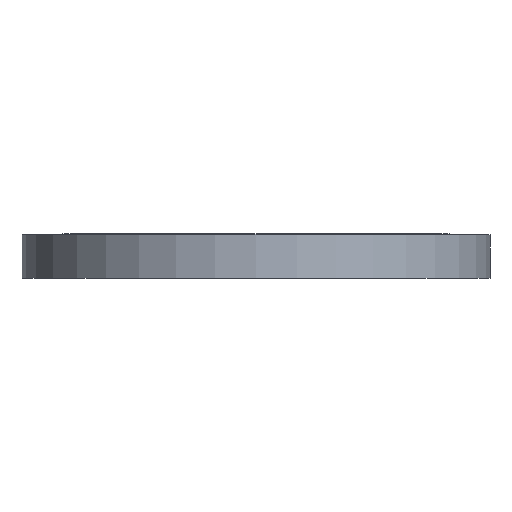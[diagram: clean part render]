
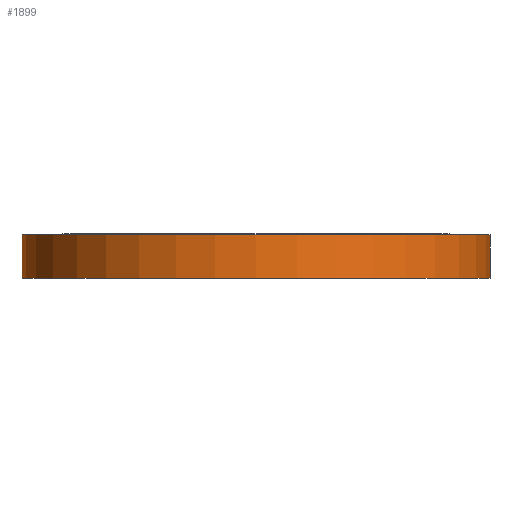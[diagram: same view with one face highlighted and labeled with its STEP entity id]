
A CAD part, front view. The second image highlights one B-rep face of the part: STEP entity #1899.
In plain terms, the highlighted cylindrical face has radius 445 mm (diameter 890 mm), a partial arc.
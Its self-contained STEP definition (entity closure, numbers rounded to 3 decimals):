
#230 = CARTESIAN_POINT ( 'NONE',  ( 445., 0., -84. ) ) ;
#283 = CARTESIAN_POINT ( 'NONE',  ( -445., 0., -2. ) ) ;
#358 = VECTOR ( 'NONE', #487, 1000. ) ;
#400 = CARTESIAN_POINT ( 'NONE',  ( -445., 0., -84. ) ) ;
#487 = DIRECTION ( 'NONE',  ( 0., 0., 1. ) ) ;
#489 = CARTESIAN_POINT ( 'NONE',  ( 445., 0., -150. ) ) ;
#491 = LINE ( 'NONE', #489, #358 ) ;
#724 = EDGE_CURVE ( 'NONE', #1261, #1681, #491, .T. ) ;
#850 = CARTESIAN_POINT ( 'NONE',  ( 445., 0., -2. ) ) ;
#916 = EDGE_LOOP ( 'NONE', ( #1615, #1619, #1621, #1622 ) ) ;
#947 = VERTEX_POINT ( 'NONE', #400 ) ;
#984 = DIRECTION ( 'NONE',  ( -1., 0., 0. ) ) ;
#985 = DIRECTION ( 'NONE',  ( 0., 0., -1. ) ) ;
#990 = CARTESIAN_POINT ( 'NONE',  ( 0., 0., -2. ) ) ;
#1032 = VECTOR ( 'NONE', #1106, 1000. ) ;
#1106 = DIRECTION ( 'NONE',  ( 0., 0., 1. ) ) ;
#1118 = CARTESIAN_POINT ( 'NONE',  ( -445., 0., -150. ) ) ;
#1122 = LINE ( 'NONE', #1118, #1032 ) ;
#1159 = VERTEX_POINT ( 'NONE', #283 ) ;
#1217 = DIRECTION ( 'NONE',  ( -1., 0., 0. ) ) ;
#1225 = DIRECTION ( 'NONE',  ( 0., 0., -1. ) ) ;
#1231 = CARTESIAN_POINT ( 'NONE',  ( 0., 0., -84. ) ) ;
#1261 = VERTEX_POINT ( 'NONE', #230 ) ;
#1390 = DIRECTION ( 'NONE',  ( 1., 0., 0. ) ) ;
#1394 = DIRECTION ( 'NONE',  ( 0., 0., 1. ) ) ;
#1395 = CARTESIAN_POINT ( 'NONE',  ( 0., 0., -150. ) ) ;
#1396 = CYLINDRICAL_SURFACE ( 'NONE', #1724, 445. ) ;
#1398 = FACE_OUTER_BOUND ( 'NONE', #916, .T. ) ;
#1615 = ORIENTED_EDGE ( 'NONE', *, *, #1924, .F. ) ;
#1619 = ORIENTED_EDGE ( 'NONE', *, *, #1910, .F. ) ;
#1621 = ORIENTED_EDGE ( 'NONE', *, *, #724, .T. ) ;
#1622 = ORIENTED_EDGE ( 'NONE', *, *, #1931, .T. ) ;
#1681 = VERTEX_POINT ( 'NONE', #850 ) ;
#1724 = AXIS2_PLACEMENT_3D ( 'NONE', #1395, #1394, #1390 ) ;
#1772 = CIRCLE ( 'NONE', #1797, 445. ) ;
#1797 = AXIS2_PLACEMENT_3D ( 'NONE', #1231, #1225, #1217 ) ;
#1896 = CIRCLE ( 'NONE', #1900, 445. ) ;
#1899 = ADVANCED_FACE ( 'NONE', ( #1398 ), #1396, .T. ) ;
#1900 = AXIS2_PLACEMENT_3D ( 'NONE', #990, #985, #984 ) ;
#1910 = EDGE_CURVE ( 'NONE', #1261, #947, #1772, .T. ) ;
#1924 = EDGE_CURVE ( 'NONE', #947, #1159, #1122, .T. ) ;
#1931 = EDGE_CURVE ( 'NONE', #1681, #1159, #1896, .T. ) ;
